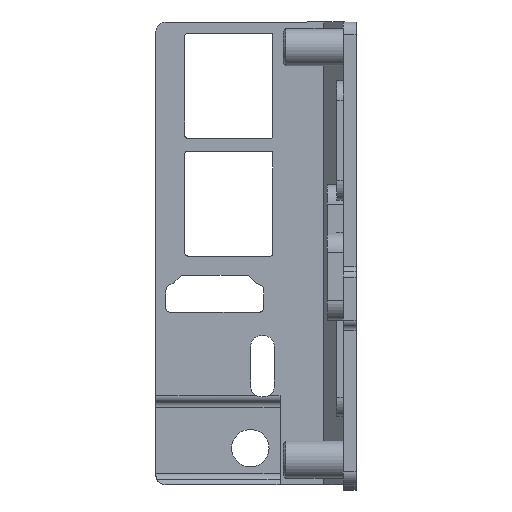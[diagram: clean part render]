
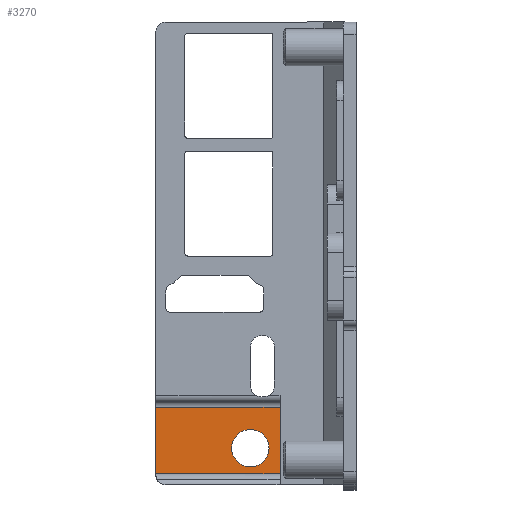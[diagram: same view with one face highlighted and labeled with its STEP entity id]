
A CAD part, left-side view. The second image highlights one B-rep face of the part: STEP entity #3270.
In plain terms, the highlighted planar face has unit normal (-1, 0, 0).
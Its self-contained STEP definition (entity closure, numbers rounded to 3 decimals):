
#172 = PLANE ( 'NONE',  #1179 ) ;
#201 = CARTESIAN_POINT ( 'NONE',  ( 253.693, 16.4, -302.732 ) ) ;
#263 = ORIENTED_EDGE ( 'NONE', *, *, #4553, .T. ) ;
#264 = VERTEX_POINT ( 'NONE', #1146 ) ;
#338 = EDGE_LOOP ( 'NONE', ( #2212, #2947 ) ) ;
#341 = VERTEX_POINT ( 'NONE', #2596 ) ;
#528 = VECTOR ( 'NONE', #2552, 1000. ) ;
#584 = CARTESIAN_POINT ( 'NONE',  ( 253.693, 0., 0. ) ) ;
#632 = LINE ( 'NONE', #5514, #2263 ) ;
#710 = FACE_BOUND ( 'NONE', #338, .T. ) ;
#1030 = AXIS2_PLACEMENT_3D ( 'NONE', #3766, #5509, #1036 ) ;
#1036 = DIRECTION ( 'NONE',  ( 0., 0., -1. ) ) ;
#1050 = DIRECTION ( 'NONE',  ( 0., 0., 1. ) ) ;
#1146 = CARTESIAN_POINT ( 'NONE',  ( 253.693, 31.05, -299.282 ) ) ;
#1152 = VECTOR ( 'NONE', #4806, 1000. ) ;
#1179 = AXIS2_PLACEMENT_3D ( 'NONE', #584, #3197, #2468 ) ;
#1411 = CARTESIAN_POINT ( 'NONE',  ( 253.693, 11.8, -309.582 ) ) ;
#1454 = EDGE_CURVE ( 'NONE', #4729, #264, #2423, .T. ) ;
#1793 = DIRECTION ( 'NONE',  ( 1., 0., 0. ) ) ;
#2074 = EDGE_CURVE ( 'NONE', #4584, #5023, #3326, .T. ) ;
#2088 = CIRCLE ( 'NONE', #5570, 2.9 ) ;
#2212 = ORIENTED_EDGE ( 'NONE', *, *, #5323, .T. ) ;
#2228 = VERTEX_POINT ( 'NONE', #3354 ) ;
#2263 = VECTOR ( 'NONE', #4172, 1000. ) ;
#2340 = CARTESIAN_POINT ( 'NONE',  ( 253.693, 31.05, -311.368 ) ) ;
#2423 = LINE ( 'NONE', #2340, #3507 ) ;
#2468 = DIRECTION ( 'NONE',  ( 0., 0., 1. ) ) ;
#2550 = ORIENTED_EDGE ( 'NONE', *, *, #1454, .F. ) ;
#2552 = DIRECTION ( 'NONE',  ( 0., -1., 0. ) ) ;
#2596 = CARTESIAN_POINT ( 'NONE',  ( 253.693, 11.8, -299.282 ) ) ;
#2611 = ORIENTED_EDGE ( 'NONE', *, *, #4158, .T. ) ;
#2947 = ORIENTED_EDGE ( 'NONE', *, *, #2074, .T. ) ;
#3068 = CARTESIAN_POINT ( 'NONE',  ( 253.693, 16.4, -305.632 ) ) ;
#3084 = EDGE_LOOP ( 'NONE', ( #3086, #263, #2611, #2550 ) ) ;
#3086 = ORIENTED_EDGE ( 'NONE', *, *, #4902, .T. ) ;
#3197 = DIRECTION ( 'NONE',  ( -1., 0., 0. ) ) ;
#3270 = ADVANCED_FACE ( 'NONE', ( #3628, #710 ), #172, .T. ) ;
#3326 = CIRCLE ( 'NONE', #1030, 2.9 ) ;
#3354 = CARTESIAN_POINT ( 'NONE',  ( 253.693, 11.8, -309.582 ) ) ;
#3507 = VECTOR ( 'NONE', #1050, 1000. ) ;
#3508 = CARTESIAN_POINT ( 'NONE',  ( 253.693, 0., -299.282 ) ) ;
#3628 = FACE_OUTER_BOUND ( 'NONE', #3084, .T. ) ;
#3691 = CARTESIAN_POINT ( 'NONE',  ( 253.693, 16.4, -308.532 ) ) ;
#3766 = CARTESIAN_POINT ( 'NONE',  ( 253.693, 16.4, -305.632 ) ) ;
#3909 = CARTESIAN_POINT ( 'NONE',  ( 253.693, 31.05, -309.582 ) ) ;
#3927 = LINE ( 'NONE', #1411, #528 ) ;
#4158 = EDGE_CURVE ( 'NONE', #341, #264, #5228, .T. ) ;
#4172 = DIRECTION ( 'NONE',  ( 0., 0., 1. ) ) ;
#4553 = EDGE_CURVE ( 'NONE', #2228, #341, #632, .T. ) ;
#4584 = VERTEX_POINT ( 'NONE', #201 ) ;
#4729 = VERTEX_POINT ( 'NONE', #3909 ) ;
#4806 = DIRECTION ( 'NONE',  ( 0., 1., 0. ) ) ;
#4902 = EDGE_CURVE ( 'NONE', #4729, #2228, #3927, .T. ) ;
#5023 = VERTEX_POINT ( 'NONE', #3691 ) ;
#5226 = DIRECTION ( 'NONE',  ( 0., 0., -1. ) ) ;
#5228 = LINE ( 'NONE', #3508, #1152 ) ;
#5323 = EDGE_CURVE ( 'NONE', #5023, #4584, #2088, .T. ) ;
#5509 = DIRECTION ( 'NONE',  ( 1., 0., 0. ) ) ;
#5514 = CARTESIAN_POINT ( 'NONE',  ( 253.693, 11.8, -310.582 ) ) ;
#5570 = AXIS2_PLACEMENT_3D ( 'NONE', #3068, #1793, #5226 ) ;
